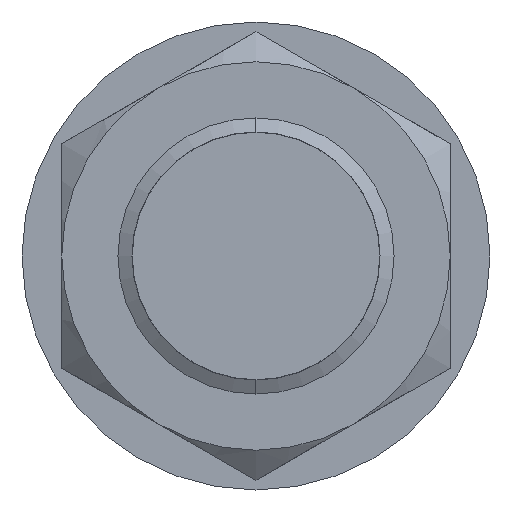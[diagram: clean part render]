
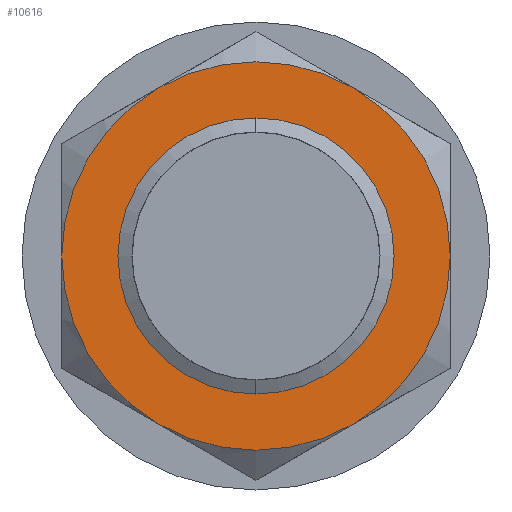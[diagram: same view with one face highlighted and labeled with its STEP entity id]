
A CAD part, left-side view. The second image highlights one B-rep face of the part: STEP entity #10616.
In plain terms, the highlighted planar face has unit normal (-1, 0, 0).
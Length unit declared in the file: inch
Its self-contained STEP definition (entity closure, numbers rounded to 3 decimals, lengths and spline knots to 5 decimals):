
#129 = VERTEX_POINT ( 'NONE', #11731 ) ;
#389 = CIRCLE ( 'NONE', #390, 0.332 ) ;
#390 = AXIS2_PLACEMENT_3D ( 'NONE', #391, #392, #393 ) ;
#391 = CARTESIAN_POINT ( 'NONE',  ( 4.42439, 4., 0. ) ) ;
#392 = DIRECTION ( 'NONE',  ( 1., 0., 0. ) ) ;
#393 = DIRECTION ( 'NONE',  ( 0., 0., -1. ) ) ;
#674 = ORIENTED_EDGE ( 'NONE', *, *, #3488, .F. ) ;
#1130 = EDGE_CURVE ( 'NONE', #4624, #8102, #12228, .T. ) ;
#1251 = ORIENTED_EDGE ( 'NONE', *, *, #10082, .F. ) ;
#1354 = CARTESIAN_POINT ( 'NONE',  ( 4.42439, 4.166, 0.28752 ) ) ;
#1479 = CIRCLE ( 'NONE', #1480, 0.332 ) ;
#1480 = AXIS2_PLACEMENT_3D ( 'NONE', #1481, #1482, #1483 ) ;
#1481 = CARTESIAN_POINT ( 'NONE',  ( 4.42439, 4., 0. ) ) ;
#1482 = DIRECTION ( 'NONE',  ( 1., 0., 0. ) ) ;
#1483 = DIRECTION ( 'NONE',  ( 0., 0., -1. ) ) ;
#1824 = EDGE_LOOP ( 'NONE', ( #1251, #674, #14279, #13699, #13131, #12557 ) ) ;
#1968 = CIRCLE ( 'NONE', #1969, 0.332 ) ;
#1969 = AXIS2_PLACEMENT_3D ( 'NONE', #1970, #1971, #1972 ) ;
#1970 = CARTESIAN_POINT ( 'NONE',  ( 4.42439, 4., 0. ) ) ;
#1971 = DIRECTION ( 'NONE',  ( 1., 0., 0. ) ) ;
#1972 = DIRECTION ( 'NONE',  ( 0., 0., -1. ) ) ;
#2086 = ORIENTED_EDGE ( 'NONE', *, *, #10960, .F. ) ;
#2347 = CARTESIAN_POINT ( 'NONE',  ( 4.42439, 4.166, -0.28752 ) ) ;
#2652 = ORIENTED_EDGE ( 'NONE', *, *, #10506, .F. ) ;
#3488 = EDGE_CURVE ( 'NONE', #11271, #129, #13355, .T. ) ;
#3952 = CIRCLE ( 'NONE', #3953, 0.332 ) ;
#3953 = AXIS2_PLACEMENT_3D ( 'NONE', #3954, #3955, #3956 ) ;
#3954 = CARTESIAN_POINT ( 'NONE',  ( 4.42439, 4., 0. ) ) ;
#3955 = DIRECTION ( 'NONE',  ( 1., 0., 0. ) ) ;
#3956 = DIRECTION ( 'NONE',  ( 0., 1., 0. ) ) ;
#4624 = VERTEX_POINT ( 'NONE', #13897 ) ;
#4740 = CARTESIAN_POINT ( 'NONE',  ( 4.42439, 3.834, 0.28752 ) ) ;
#4974 = CIRCLE ( 'NONE', #4975, 0.231 ) ;
#4975 = AXIS2_PLACEMENT_3D ( 'NONE', #4981, #4982, #4983 ) ;
#4981 = CARTESIAN_POINT ( 'NONE',  ( 4.42439, 4., 0. ) ) ;
#4982 = DIRECTION ( 'NONE',  ( -1., 0., 0. ) ) ;
#4983 = DIRECTION ( 'NONE',  ( 0., 0., -1. ) ) ;
#5235 = FACE_BOUND ( 'NONE', #8204, .T. ) ;
#5236 = FACE_OUTER_BOUND ( 'NONE', #1824, .T. ) ;
#5237 = PLANE ( 'NONE',  #5238 ) ;
#5238 = AXIS2_PLACEMENT_3D ( 'NONE', #5239, #5240, #5241 ) ;
#5239 = CARTESIAN_POINT ( 'NONE',  ( 4.42439, 4., 0. ) ) ;
#5240 = DIRECTION ( 'NONE',  ( 1., 0., 0. ) ) ;
#5241 = DIRECTION ( 'NONE',  ( 0., 0., -1. ) ) ;
#5592 = CARTESIAN_POINT ( 'NONE',  ( 4.42439, 4., 0.231 ) ) ;
#5703 = CARTESIAN_POINT ( 'NONE',  ( 4.42439, 4., -0.231 ) ) ;
#6031 = CIRCLE ( 'NONE', #6038, 0.231 ) ;
#6038 = AXIS2_PLACEMENT_3D ( 'NONE', #6039, #6040, #6041 ) ;
#6039 = CARTESIAN_POINT ( 'NONE',  ( 4.42439, 4., 0. ) ) ;
#6040 = DIRECTION ( 'NONE',  ( -1., 0., 0. ) ) ;
#6041 = DIRECTION ( 'NONE',  ( 0., 0., -1. ) ) ;
#6299 = EDGE_CURVE ( 'NONE', #10390, #11271, #389, .T. ) ;
#6755 = CARTESIAN_POINT ( 'NONE',  ( 4.42439, 3.668, 0. ) ) ;
#8102 = VERTEX_POINT ( 'NONE', #1354 ) ;
#8204 = EDGE_LOOP ( 'NONE', ( #2652, #2086 ) ) ;
#8260 = EDGE_CURVE ( 'NONE', #9119, #4624, #1479, .T. ) ;
#9119 = VERTEX_POINT ( 'NONE', #2347 ) ;
#10082 = EDGE_CURVE ( 'NONE', #129, #9119, #3952, .T. ) ;
#10390 = VERTEX_POINT ( 'NONE', #4740 ) ;
#10506 = EDGE_CURVE ( 'NONE', #10827, #10772, #4974, .T. ) ;
#10616 = ADVANCED_FACE ( 'NONE', ( #5235, #5236 ), #5237, .F. ) ;
#10772 = VERTEX_POINT ( 'NONE', #5592 ) ;
#10827 = VERTEX_POINT ( 'NONE', #5703 ) ;
#10960 = EDGE_CURVE ( 'NONE', #10772, #10827, #6031, .T. ) ;
#11271 = VERTEX_POINT ( 'NONE', #6755 ) ;
#11731 = CARTESIAN_POINT ( 'NONE',  ( 4.42439, 3.834, -0.28752 ) ) ;
#12228 = CIRCLE ( 'NONE', #12229, 0.332 ) ;
#12229 = AXIS2_PLACEMENT_3D ( 'NONE', #12230, #12231, #12232 ) ;
#12230 = CARTESIAN_POINT ( 'NONE',  ( 4.42439, 4., 0. ) ) ;
#12231 = DIRECTION ( 'NONE',  ( 1., 0., 0. ) ) ;
#12232 = DIRECTION ( 'NONE',  ( 0., 0., -1. ) ) ;
#12557 = ORIENTED_EDGE ( 'NONE', *, *, #8260, .F. ) ;
#12668 = EDGE_CURVE ( 'NONE', #8102, #10390, #1968, .T. ) ;
#13131 = ORIENTED_EDGE ( 'NONE', *, *, #1130, .F. ) ;
#13355 = CIRCLE ( 'NONE', #13356, 0.332 ) ;
#13356 = AXIS2_PLACEMENT_3D ( 'NONE', #13362, #13363, #13364 ) ;
#13362 = CARTESIAN_POINT ( 'NONE',  ( 4.42439, 4., 0. ) ) ;
#13363 = DIRECTION ( 'NONE',  ( 1., 0., 0. ) ) ;
#13364 = DIRECTION ( 'NONE',  ( 0., 0., -1. ) ) ;
#13699 = ORIENTED_EDGE ( 'NONE', *, *, #12668, .F. ) ;
#13897 = CARTESIAN_POINT ( 'NONE',  ( 4.42439, 4.332, 0. ) ) ;
#14279 = ORIENTED_EDGE ( 'NONE', *, *, #6299, .F. ) ;
